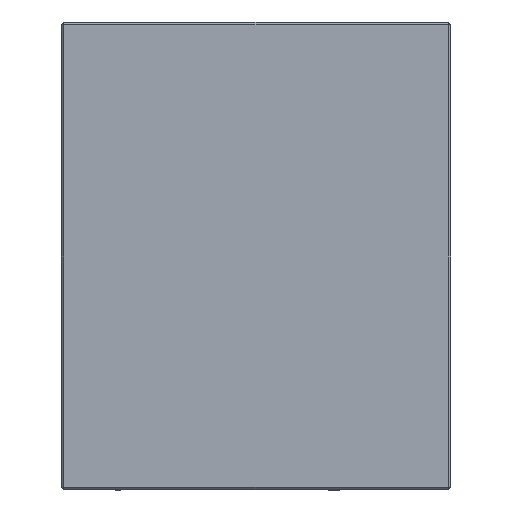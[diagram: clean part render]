
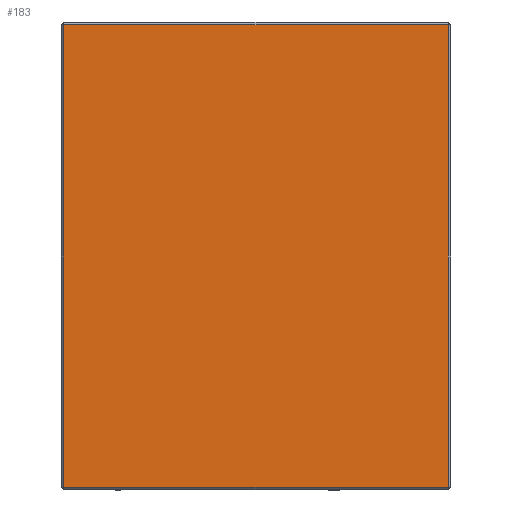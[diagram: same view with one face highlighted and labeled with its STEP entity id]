
A CAD part, front view. The second image highlights one B-rep face of the part: STEP entity #183.
In plain terms, the highlighted planar face has unit normal (0, -1, 0).
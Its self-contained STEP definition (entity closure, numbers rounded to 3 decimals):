
#183=ADVANCED_FACE('',(#780),#782,.T.);
#780=FACE_BOUND('',#781,.T.);
#781=EDGE_LOOP('',(#1249,#1250,#1251,#1252));
#782=PLANE('',#783);
#783=AXIS2_PLACEMENT_3D('',#784,#785,#786);
#784=CARTESIAN_POINT('',(-75.,-115.,90.));
#785=DIRECTION('',(0.,-1.,0.));
#786=DIRECTION('',(0.,0.,-1.));
#1249=ORIENTED_EDGE('',*,*,#1441,.T.);
#1250=ORIENTED_EDGE('',*,*,#1442,.F.);
#1251=ORIENTED_EDGE('',*,*,#1443,.F.);
#1252=ORIENTED_EDGE('',*,*,#1444,.T.);
#1441=EDGE_CURVE('',#1582,#1583,#1584,.T.);
#1442=EDGE_CURVE('',#1585,#1583,#1586,.T.);
#1443=EDGE_CURVE('',#1587,#1585,#1588,.T.);
#1444=EDGE_CURVE('',#1587,#1582,#1589,.T.);
#1582=VERTEX_POINT('',#2135);
#1583=VERTEX_POINT('',#2136);
#1584=LINE('',#2137,#2138);
#1585=VERTEX_POINT('',#2140);
#1586=LINE('',#2141,#2142);
#1587=VERTEX_POINT('',#2144);
#1588=LINE('',#2145,#2146);
#1589=LINE('',#2148,#2149);
#2135=CARTESIAN_POINT('',(-74.,-115.,-89.));
#2136=CARTESIAN_POINT('',(74.,-115.,-89.));
#2137=CARTESIAN_POINT('',(-74.,-115.,-89.));
#2138=VECTOR('',#2139,1.);
#2139=DIRECTION('',(1.,0.,0.));
#2140=CARTESIAN_POINT('',(74.,-115.,89.));
#2141=CARTESIAN_POINT('',(74.,-115.,89.));
#2142=VECTOR('',#2143,1.);
#2143=DIRECTION('',(0.,0.,-1.));
#2144=CARTESIAN_POINT('',(-74.,-115.,89.));
#2145=CARTESIAN_POINT('',(-74.,-115.,89.));
#2146=VECTOR('',#2147,1.);
#2147=DIRECTION('',(1.,0.,0.));
#2148=CARTESIAN_POINT('',(-74.,-115.,89.));
#2149=VECTOR('',#2150,1.);
#2150=DIRECTION('',(0.,0.,-1.));
